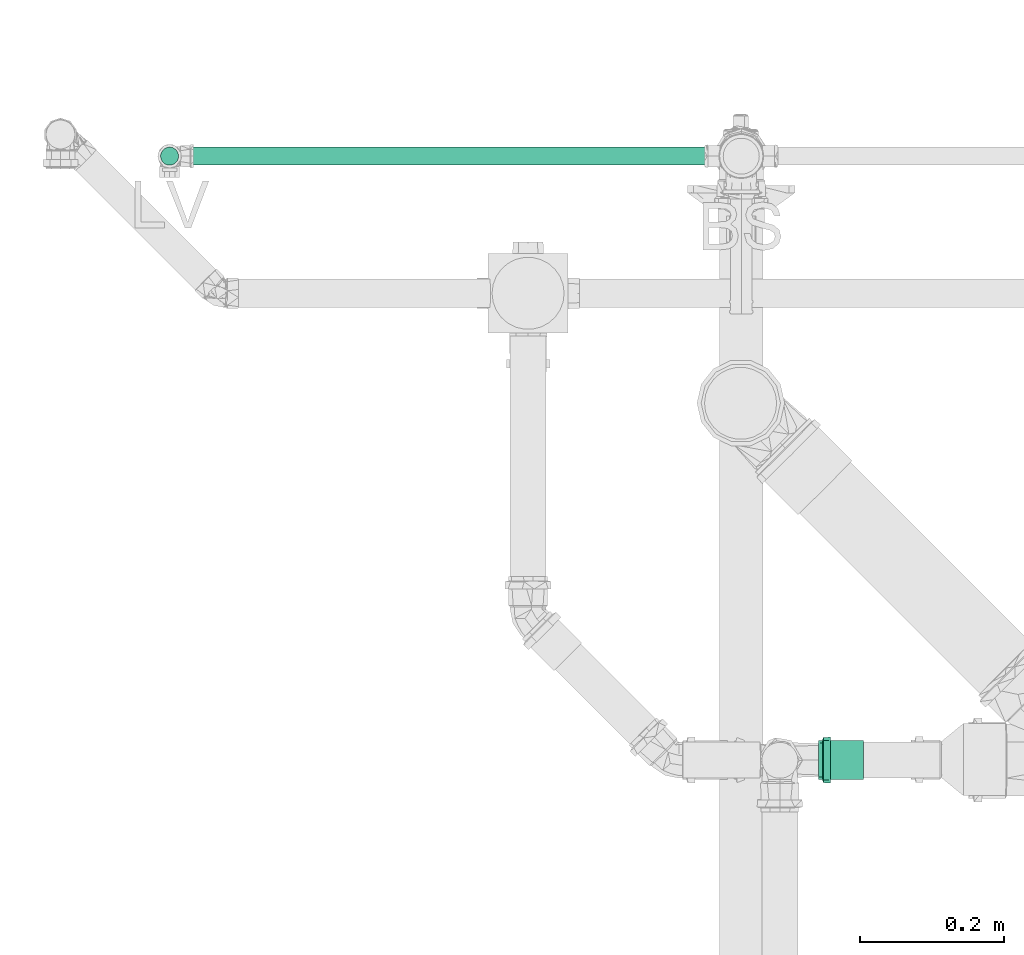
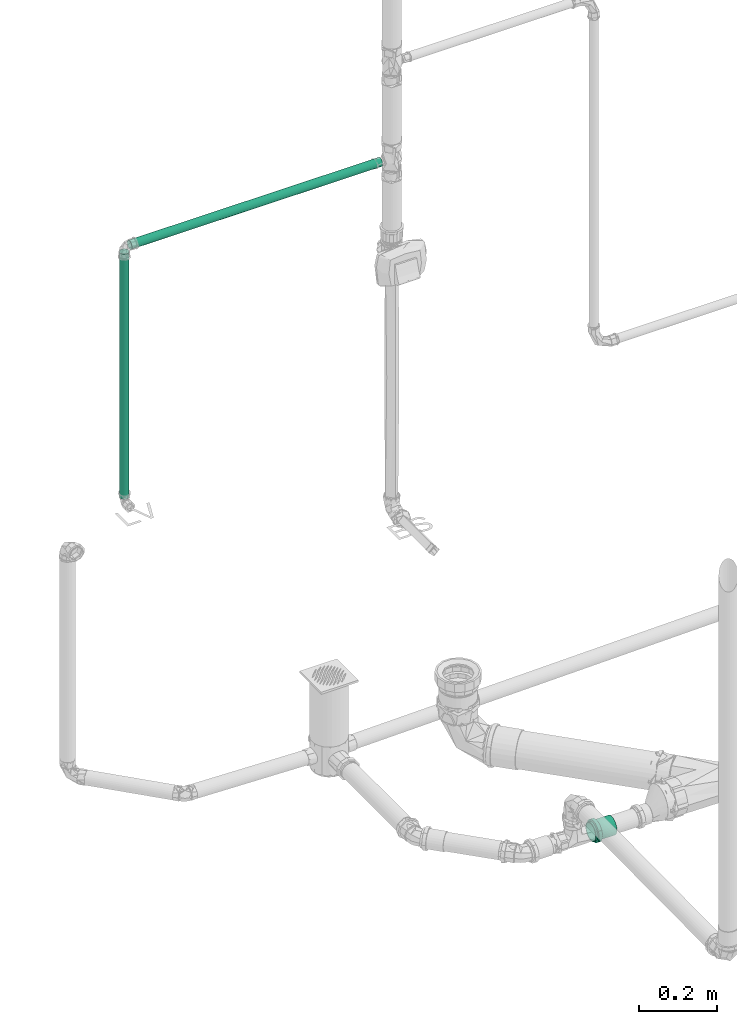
# One storey, part 287 of 589: 2 flow segments, 1 flow fitting.
"""IFC2X3 building model written with IfcOpenShell, lengths in millimetres."""

from ifc_helpers import new_model, entity, si_unit, converted_unit, derived_unit, direction, frame, origin, origin_2d_with_axis, place, context, subcontext, project, spatial, circle, extrude, faceted_brep, source, transform, mapped, material, type_object, type_shapes, element, save


model = new_model("IFC2X3")

# Units and contexts
model_context = context("Model", 3, precision=0.01, world=origin(), true_north=direction((6.123031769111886e-17, 1.0)))
body_context = subcontext(model_context, "Body", "Model", "MODEL_VIEW")
ifc_project = project(units=[si_unit("LENGTHUNIT", "METRE", prefix="MILLI"), si_unit("AREAUNIT", "SQUARE_METRE"), si_unit("VOLUMEUNIT", "CUBIC_METRE"), converted_unit("PLANEANGLEUNIT", "DEGREE", entity("IfcRatioMeasure", 0.017453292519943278), si_unit("PLANEANGLEUNIT", "RADIAN"), dimensions=[0, 0, 0, 0, 0, 0, 0]), si_unit("MASSUNIT", "GRAM", prefix="KILO"), derived_unit("MASSDENSITYUNIT", [(si_unit("MASSUNIT", "GRAM", prefix="KILO"), 1), (si_unit("LENGTHUNIT", "METRE"), -3)]), derived_unit("IONCONCENTRATIONUNIT", [(si_unit("MASSUNIT", "GRAM", prefix="KILO"), 1), (si_unit("LENGTHUNIT", "METRE"), -3)]), derived_unit("MOMENTOFINERTIAUNIT", [(si_unit("LENGTHUNIT", "METRE"), 4)]), si_unit("TIMEUNIT", "SECOND"), si_unit("FREQUENCYUNIT", "HERTZ"), si_unit("THERMODYNAMICTEMPERATUREUNIT", "DEGREE_CELSIUS"), derived_unit("THERMALTRANSMITTANCEUNIT", [(si_unit("MASSUNIT", "GRAM", prefix="KILO"), 1), (si_unit("THERMODYNAMICTEMPERATUREUNIT", "KELVIN"), -1), (si_unit("TIMEUNIT", "SECOND"), -3)]), derived_unit("THERMALCONDUCTANCEUNIT", [(si_unit("MASSUNIT", "GRAM", prefix="KILO"), 1), (si_unit("THERMODYNAMICTEMPERATUREUNIT", "KELVIN"), -1), (si_unit("TIMEUNIT", "SECOND"), -3), (si_unit("LENGTHUNIT", "METRE"), 1)]), derived_unit("VOLUMETRICFLOWRATEUNIT", [(si_unit("LENGTHUNIT", "METRE"), 3), (si_unit("TIMEUNIT", "SECOND"), -1)]), derived_unit("MASSFLOWRATEUNIT", [(si_unit("MASSUNIT", "GRAM", prefix="KILO"), 1), (si_unit("TIMEUNIT", "SECOND"), -1)]), derived_unit("ROTATIONALFREQUENCYUNIT", [(si_unit("TIMEUNIT", "SECOND"), -1)]), si_unit("ELECTRICCURRENTUNIT", "AMPERE"), si_unit("ELECTRICVOLTAGEUNIT", "VOLT"), si_unit("POWERUNIT", "WATT"), si_unit("FORCEUNIT", "NEWTON", prefix="KILO"), si_unit("ILLUMINANCEUNIT", "LUX"), si_unit("LUMINOUSFLUXUNIT", "LUMEN"), si_unit("LUMINOUSINTENSITYUNIT", "CANDELA"), derived_unit("USERDEFINED", [(si_unit("MASSUNIT", "GRAM", prefix="KILO"), -1), (si_unit("LENGTHUNIT", "METRE"), -2), (si_unit("TIMEUNIT", "SECOND"), 3), (si_unit("LUMINOUSFLUXUNIT", "LUMEN"), 1)]), derived_unit("USERDEFINED", [(si_unit("MASSUNIT", "GRAM", prefix="KILO"), 1), (si_unit("TIMEUNIT", "SECOND"), -3), (si_unit("LENGTHUNIT", "METRE"), 3), (si_unit("ELECTRICCURRENTUNIT", "AMPERE"), -2)]), derived_unit("SOUNDPOWERUNIT", [(si_unit("MASSUNIT", "GRAM", prefix="KILO"), 1), (si_unit("TIMEUNIT", "SECOND"), -3), (si_unit("LENGTHUNIT", "METRE"), 2)]), derived_unit("SOUNDPRESSUREUNIT", [(si_unit("MASSUNIT", "GRAM", prefix="KILO"), 1), (si_unit("LENGTHUNIT", "METRE"), -1), (si_unit("TIMEUNIT", "SECOND"), -2)]), derived_unit("LINEARVELOCITYUNIT", [(si_unit("LENGTHUNIT", "METRE"), 1), (si_unit("TIMEUNIT", "SECOND"), -1)]), si_unit("PRESSUREUNIT", "PASCAL"), derived_unit("USERDEFINED", [(si_unit("MASSUNIT", "GRAM", prefix="KILO"), 1), (si_unit("LENGTHUNIT", "METRE"), -2), (si_unit("TIMEUNIT", "SECOND"), -2)]), derived_unit("LINEARFORCEUNIT", [(si_unit("MASSUNIT", "GRAM", prefix="KILO"), 1), (si_unit("TIMEUNIT", "SECOND"), -2)]), derived_unit("PLANARFORCEUNIT", [(si_unit("MASSUNIT", "GRAM", prefix="KILO"), 1), (si_unit("LENGTHUNIT", "METRE"), -1), (si_unit("TIMEUNIT", "SECOND"), -2)]), derived_unit("SPECIFICHEATCAPACITYUNIT", [(si_unit("THERMODYNAMICTEMPERATUREUNIT", "KELVIN"), -1), (si_unit("LENGTHUNIT", "METRE"), 2), (si_unit("TIMEUNIT", "SECOND"), -2)]), derived_unit("HEATINGVALUEUNIT", [(si_unit("LENGTHUNIT", "METRE"), 2), (si_unit("TIMEUNIT", "SECOND"), -2)]), derived_unit("VAPORPERMEABILITYUNIT", [(si_unit("LENGTHUNIT", "METRE"), -1), (si_unit("TIMEUNIT", "SECOND"), 1)]), derived_unit("DYNAMICVISCOSITYUNIT", [(si_unit("MASSUNIT", "GRAM", prefix="KILO"), 1), (si_unit("TIMEUNIT", "SECOND"), -1), (si_unit("LENGTHUNIT", "METRE"), -1)]), derived_unit("THERMALEXPANSIONCOEFFICIENTUNIT", [(si_unit("THERMODYNAMICTEMPERATUREUNIT", "KELVIN"), -1)]), derived_unit("MODULUSOFELASTICITYUNIT", [(si_unit("MASSUNIT", "GRAM", prefix="KILO"), 1), (si_unit("LENGTHUNIT", "METRE"), -1), (si_unit("TIMEUNIT", "SECOND"), -2)]), derived_unit("ISOTHERMALMOISTURECAPACITYUNIT", [(si_unit("LENGTHUNIT", "METRE"), 3), (si_unit("MASSUNIT", "GRAM", prefix="KILO"), -1)]), derived_unit("MOISTUREDIFFUSIVITYUNIT", [(si_unit("TIMEUNIT", "SECOND"), -1), (si_unit("LENGTHUNIT", "METRE"), 2)])], contexts=[model_context])

# Site, building, storey
site_placement = place(None, origin())
site = spatial("IfcSite", under=ifc_project, at=site_placement, Name="Default", CompositionType="ELEMENT")
building_placement = place(site_placement, origin())
building = spatial("IfcBuilding", under=site, at=building_placement, CompositionType="ELEMENT")
storey_placement = place(building_placement, frame((0.0, 0.0, 100.0)))
storey = spatial("IfcBuildingStorey", under=building, at=storey_placement, Name="TÉRREO", CompositionType="ELEMENT", Elevation=100.0)

# Flow segments
pipe_segment_type = type_object("IfcPipeSegmentType", Name="Tipos de tubos:PVC Marrom Soldável", PredefinedType="NOTDEFINED")
flow_segment_1_placement = place(storey_placement, origin())
element("IfcFlowSegment", 1, at=flow_segment_1_placement, inside=storey, type_object=pipe_segment_type, Name="Tipos de tubos:PVC Marrom Soldável", ObjectType="Tipos de tubos:PVC Marrom Soldável", context=body_context, shape_type="SweptSolid", body=[
    extrude(circle(Radius=12.5, at=origin_2d_with_axis()), frame((5262.214646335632, 7535.924752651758, 616.3000000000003), z_axis=(0.0, 0.0, 1.0), x_axis=(-1.0, 0.0, 0.0)), (0.0, 0.0, 1.0), 768.2999999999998),
])
flow_segment_2_placement = place(storey_placement, origin())
element("IfcFlowSegment", 2, at=flow_segment_2_placement, inside=storey, type_object=pipe_segment_type, Name="Tipos de tubos:PVC Marrom Soldável", ObjectType="Tipos de tubos:PVC Marrom Soldável", context=body_context, shape_type="SweptSolid", body=[
    extrude(circle(Radius=12.5, at=origin_2d_with_axis()), frame((5277.614646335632, 7535.924752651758, 1400.0), z_axis=(1.0, 0.0, 0.0), x_axis=(0.0, -1.0, 0.0)), (0.0, 0.0, 1.0), 743.5038601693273),
])

# Flow fitting
ifc_material = material(Name="PVC Série Normal")
pipe_fitting_type = type_object("IfcPipeFittingType", Name="PVC Esgoto_Luva Simples para Conexão_Rodrigo MEP:Standard", PredefinedType="NOTDEFINED", material=ifc_material)
shared_shape = source(origin(), body_context, "Body", "Brep", [
    faceted_brep([(16.599999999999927, 15.900000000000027, -27.53960784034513), (16.599999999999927, 22.485995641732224, -22.485995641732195), (16.599999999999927, 13.599999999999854, -23.555890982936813), (16.599999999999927, 7.039878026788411, -26.273182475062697), (16.599999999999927, 8.2304456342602, -30.71644127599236), (16.599999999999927, 19.233304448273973, -19.233304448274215), (16.599999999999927, 27.539607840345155, -15.899999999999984), (16.599999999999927, 23.55589098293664, -13.600000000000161), (16.599999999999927, 26.273182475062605, -7.03987802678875), (16.599999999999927, 30.716441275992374, -8.230445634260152), (16.599999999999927, 27.2, 0.0), (16.599999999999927, 31.8, 0.0), (16.599999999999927, 26.273182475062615, 7.0398780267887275), (16.599999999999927, 30.71644127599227, 8.23044563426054), (16.599999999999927, 23.555890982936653, 13.60000000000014), (16.599999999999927, 27.539607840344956, 15.900000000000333), (16.599999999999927, 19.233304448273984, 19.2333044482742), (16.599999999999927, 22.485995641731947, 22.48599564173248), (16.599999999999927, 13.599999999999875, 23.555890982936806), (16.599999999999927, 15.899999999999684, 27.53960784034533), (16.599999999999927, 7.039878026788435, 26.27318247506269), (16.599999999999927, 8.230445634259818, 30.716441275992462), (16.599999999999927, 0.0, 27.2), (16.599999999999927, 0.0, 31.8), (16.599999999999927, -7.039878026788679, 26.273182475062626), (16.599999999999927, -8.230445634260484, 30.716441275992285), (16.599999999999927, -13.600000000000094, 23.555890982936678), (16.599999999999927, -15.900000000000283, 27.53960784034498), (16.599999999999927, -19.23330444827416, 19.233304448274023), (16.599999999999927, -22.485995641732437, 22.48599564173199), (16.599999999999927, -23.55589098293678, 13.59999999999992), (16.599999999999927, -27.539607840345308, 15.899999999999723), (16.599999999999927, -30.71644127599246, 8.230445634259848), (16.599999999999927, -26.273182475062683, 7.039878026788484), (16.599999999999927, -31.8, 0.0), (16.599999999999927, -27.2, 0.0), (16.599999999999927, -30.71644127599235, -8.23044563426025), (16.599999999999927, -26.273182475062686, -7.03987802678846), (16.599999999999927, -27.53960784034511, -15.90000000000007), (16.599999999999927, -23.55589098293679, -13.599999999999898), (16.599999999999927, -22.485995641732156, -22.485995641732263), (16.599999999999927, -19.233304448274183, -19.233304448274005), (16.599999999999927, -15.899999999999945, -27.53960784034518), (16.599999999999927, -13.600000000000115, -23.555890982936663), (16.599999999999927, -8.230445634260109, -30.716441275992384), (16.599999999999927, -7.039878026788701, -26.273182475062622), (16.599999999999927, 0.0, -31.8), (16.599999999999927, 0.0, -27.2), (6.500000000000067, -10.708108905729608, 29.429219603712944), (6.500000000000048, -24.359073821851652, 20.44200387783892), (6.500000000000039, -27.120498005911, 15.6595386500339), (6.50000000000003, -29.881922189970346, 10.877073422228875), (6.500000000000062, -15.89769721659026, 27.540937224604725), (6.500000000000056, -20.128385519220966, 23.991470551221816), (6.50000000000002, -30.840961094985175, 5.438536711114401), (6.5000000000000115, -31.8, 0.0), (6.50000000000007, -5.518520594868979, 31.317501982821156), (6.500000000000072, 5.526376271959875, 31.316116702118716), (6.50000000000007, 0.00392783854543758, 31.316809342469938), (6.500000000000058, 20.134403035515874, 23.986420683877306), (6.500000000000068, 10.715490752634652, 29.42653259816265), (6.500000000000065, 15.904605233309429, 27.536948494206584), (6.500000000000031, 29.8846497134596, 10.869577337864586), (6.500000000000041, 27.12442527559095, 15.652735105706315), (6.5000000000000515, 24.364200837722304, 20.435892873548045), (6.5000000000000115, 31.8, 0.0), (6.499999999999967, 24.364200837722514, -20.435892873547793), (6.499999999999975, 27.12442527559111, -15.652735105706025), (6.499999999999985, 29.884649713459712, -10.869577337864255), (6.4999999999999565, 15.904605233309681, -27.53694849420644), (6.499999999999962, 20.134403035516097, -23.986420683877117), (6.499999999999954, 10.715490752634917, -29.42653259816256), (6.499999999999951, 5.526376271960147, -31.31611670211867), (6.499999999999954, -5.518520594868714, -31.317501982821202), (6.499999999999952, 0.003927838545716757, -31.316809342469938), (6.499999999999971, -20.128385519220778, -23.99147055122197), (6.499999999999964, -15.897697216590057, -27.54093722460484), (6.499999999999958, -10.70810890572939, -29.42921960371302), (6.499999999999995, -29.881922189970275, -10.877073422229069), (6.499999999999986, -27.12049800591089, -15.659538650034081), (6.499999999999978, -24.359073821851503, -20.442003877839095), (6.500000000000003, -30.840961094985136, -5.438536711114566), (6.499999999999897, -30.696173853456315, -6.259599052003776), (62.0, 13.600000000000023, -23.55589098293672), (62.0, 19.233304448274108, -19.23330444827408), (62.0, 12.499999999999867, -21.650635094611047), (62.0, 6.470476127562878, -24.14814565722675), (62.0, 7.039878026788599, -26.273182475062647), (62.0, 17.677669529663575, -17.677669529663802), (62.0, 23.55589098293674, -13.599999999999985), (62.0, 21.65063509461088, -12.50000000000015), (62.0, 24.148145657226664, -6.470476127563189), (62.0, 26.27318247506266, -7.039878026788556), (62.0, 25.0, 0.0), (62.0, 27.2, 0.0), (62.0, 24.148145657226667, 6.4704761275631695), (62.0, 26.273182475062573, 7.03987802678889), (62.0, 21.650635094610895, 12.500000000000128), (62.0, 23.555890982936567, 13.600000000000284), (62.0, 17.67766952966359, 17.67766952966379), (62.0, 19.233304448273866, 19.233304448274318), (62.0, 12.499999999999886, 21.650635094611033), (62.0, 13.59999999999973, 23.55589098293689), (62.0, 6.4704761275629, 24.14814565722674), (62.0, 7.039878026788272, 26.273182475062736), (62.0, 0.0, 25.0), (62.0, 0.0, 27.2), (62.0, -6.470476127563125, 24.148145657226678), (62.0, -7.039878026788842, 26.273182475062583), (62.0, -12.500000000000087, 21.650635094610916), (62.0, -13.600000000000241, 23.555890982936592), (62.0, -17.677669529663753, 17.677669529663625), (62.0, -19.233304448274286, 19.2333044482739), (62.0, -21.65063509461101, 12.499999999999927), (62.0, -23.555890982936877, 13.599999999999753), (62.0, -26.27318247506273, 7.039878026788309), (62.0, -24.14814565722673, 6.470476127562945), (62.0, -27.2, 0.0), (62.0, -25.0, 0.0), (62.0, -26.27318247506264, -7.0398780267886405), (62.0, -24.148145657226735, -6.470476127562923), (62.0, -23.5558909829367, -13.600000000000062), (62.0, -21.650635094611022, -12.499999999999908), (62.0, -19.233304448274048, -19.233304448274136), (62.0, -17.67766952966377, -17.677669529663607), (62.0, -13.599999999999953, -23.555890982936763), (62.0, -12.500000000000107, -21.650635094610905), (62.0, -7.039878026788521, -26.27318247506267), (62.0, -6.470476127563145, -24.148145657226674), (62.0, 0.0, -27.2), (62.0, 0.0, -25.0), (0.0, 12.499999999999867, -21.650635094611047), (0.0, 19.233304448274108, -19.23330444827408), (0.0, 13.600000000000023, -23.55589098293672), (0.0, 6.470476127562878, -24.14814565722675), (0.0, 17.677669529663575, -17.677669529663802), (0.0, 23.55589098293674, -13.599999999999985), (0.0, 21.65063509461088, -12.50000000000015), (0.0, 24.148145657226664, -6.470476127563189), (0.0, 26.27318247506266, -7.039878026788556), (0.0, 25.0, 0.0), (0.0, 27.2, 0.0), (0.0, 24.148145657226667, 6.4704761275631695), (0.0, 26.273182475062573, 7.03987802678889), (0.0, 21.650635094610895, 12.500000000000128), (0.0, 23.555890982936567, 13.600000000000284), (0.0, 17.67766952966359, 17.67766952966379), (0.0, 19.233304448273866, 19.233304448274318), (0.0, 12.499999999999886, 21.650635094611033), (0.0, 13.59999999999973, 23.55589098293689), (0.0, 6.4704761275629, 24.14814565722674), (0.0, 7.039878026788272, 26.273182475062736), (0.0, 0.0, 25.0), (0.0, 0.0, 27.2), (0.0, -6.470476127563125, 24.148145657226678), (0.0, -7.039878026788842, 26.273182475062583), (0.0, -12.500000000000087, 21.650635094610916), (0.0, -13.600000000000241, 23.555890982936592), (0.0, -17.677669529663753, 17.677669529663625), (0.0, -19.233304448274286, 19.2333044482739), (0.0, -21.65063509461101, 12.499999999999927), (0.0, -23.555890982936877, 13.599999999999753), (0.0, -26.27318247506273, 7.039878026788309), (0.0, -24.14814565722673, 6.470476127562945), (0.0, -27.2, 0.0), (0.0, -25.0, 0.0), (0.0, -26.27318247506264, -7.0398780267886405), (0.0, -24.148145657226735, -6.470476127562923), (0.0, -23.5558909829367, -13.600000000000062), (0.0, -21.650635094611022, -12.499999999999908), (0.0, -19.233304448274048, -19.233304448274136), (0.0, -17.67766952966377, -17.677669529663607), (0.0, -13.599999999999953, -23.555890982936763), (0.0, -12.500000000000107, -21.650635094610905), (0.0, -7.039878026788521, -26.27318247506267), (0.0, -6.470476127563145, -24.148145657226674), (0.0, 0.0, -27.2), (0.0, 0.0, -25.0), (0.0, 7.039878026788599, -26.273182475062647), (5.300000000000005, -26.37968999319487, 4.651830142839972), (5.299999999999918, -26.25584678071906, 5.354122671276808), (5.300000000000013, -25.559379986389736, 9.303660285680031), (5.300000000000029, -20.835434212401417, 17.48498444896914), (5.300000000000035, -17.216732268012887, 20.521006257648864), (5.300000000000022, -23.19740709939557, 13.394322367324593), (5.3000000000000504, -4.720244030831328, 26.787297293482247), (5.300000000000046, -9.15913717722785, 25.172162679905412), (5.299999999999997, -27.2, 0.0), (5.300000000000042, -13.598030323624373, 23.557028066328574), (5.300000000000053, 9.165451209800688, 25.169864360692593), (5.300000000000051, 13.603939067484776, 23.55361632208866), (5.300000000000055, 4.7269633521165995, 26.786112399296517), (5.300000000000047, 17.221879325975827, 20.516686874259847), (5.300000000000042, 20.839819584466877, 17.479757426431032), (5.3000000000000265, 25.56171296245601, 9.297248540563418), (5.299999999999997, 27.2, 0.0), (5.3000000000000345, 23.20076627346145, 13.388502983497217), (5.300000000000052, 0.003359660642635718, 26.786704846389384), (5.299999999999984, 25.56171296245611, -9.29724854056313), (5.299999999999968, 20.839819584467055, -17.47975742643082), (5.2999999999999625, 17.22187932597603, -20.516686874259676), (5.299999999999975, 23.200766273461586, -13.388502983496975), (5.299999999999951, 4.726963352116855, -26.78611239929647), (5.2999999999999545, 9.165451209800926, -25.169864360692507), (5.299999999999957, 13.603939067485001, -23.553616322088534), (5.29999999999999, -26.379689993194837, -4.651830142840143), (5.299999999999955, -9.159137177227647, -25.17216267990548), (5.299999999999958, -13.5980303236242, -23.55702806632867), (5.299999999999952, -4.720244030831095, -26.787297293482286), (5.299999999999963, -17.216732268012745, -20.52100625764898), (5.299999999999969, -20.83543421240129, -17.484984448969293), (5.299999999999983, -25.559379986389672, -9.303660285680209), (5.299999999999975, -23.197407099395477, -13.394322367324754), (5.299999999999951, 0.003359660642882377, -26.78670484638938), (39.0, -25.0, 0.0), (39.0, 25.0, 0.0)], [[[0, 1, 2]], [[0, 2, 3]], [[3, 4, 0]], [[2, 1, 5]], [[6, 5, 1]], [[7, 5, 6]], [[8, 7, 6]], [[8, 6, 9]], [[8, 9, 10]], [[10, 9, 11]], [[12, 10, 11]], [[12, 11, 13]], [[14, 12, 13]], [[14, 13, 15]], [[16, 14, 15]], [[15, 17, 16]], [[17, 18, 16]], [[17, 19, 18]], [[18, 19, 20]], [[21, 20, 19]], [[20, 21, 22]], [[22, 21, 23]], [[22, 23, 24]], [[24, 23, 25]], [[24, 25, 26]], [[27, 26, 25]], [[27, 28, 26]], [[28, 27, 29]], [[30, 28, 29]], [[31, 30, 29]], [[32, 30, 31]], [[33, 30, 32]], [[33, 32, 34]], [[35, 33, 34]], [[36, 35, 34]], [[36, 37, 35]], [[37, 36, 38]], [[39, 37, 38]], [[39, 38, 40]], [[39, 40, 41]], [[40, 42, 41]], [[41, 42, 43]], [[43, 42, 44]], [[44, 45, 43]], [[46, 45, 44]], [[4, 47, 46]], [[46, 47, 45]], [[4, 3, 47]], [[48, 27, 25]], [[31, 29, 49]], [[31, 49, 50, 51]], [[52, 53, 27]], [[32, 51, 54]], [[54, 55, 34]], [[54, 34, 32]], [[25, 56, 48]], [[49, 29, 53]], [[23, 57, 58, 56]], [[59, 19, 17]], [[27, 53, 29]], [[48, 52, 27]], [[31, 51, 32]], [[57, 23, 21]], [[60, 19, 61]], [[15, 62, 63, 64]], [[19, 60, 21]], [[15, 13, 62]], [[17, 64, 59]], [[57, 21, 60]], [[23, 56, 25]], [[15, 64, 17]], [[13, 65, 62]], [[13, 11, 65]], [[59, 61, 19]], [[65, 11, 9]], [[6, 1, 66]], [[6, 66, 67, 68]], [[69, 70, 0]], [[68, 65, 9]], [[71, 69, 0]], [[71, 0, 4]], [[4, 72, 71]], [[66, 1, 70]], [[46, 73, 74, 72]], [[75, 76, 42]], [[0, 70, 1]], [[75, 42, 40]], [[6, 68, 9]], [[73, 46, 44]], [[77, 42, 76]], [[38, 78, 79, 80]], [[42, 77, 44]], [[38, 36, 78]], [[40, 80, 75]], [[73, 44, 77]], [[46, 72, 4]], [[38, 80, 40]], [[36, 81, 82, 78]], [[55, 81, 34]], [[34, 81, 36]], [[83, 84, 85]], [[83, 85, 86]], [[86, 87, 83]], [[85, 84, 88]], [[89, 88, 84]], [[88, 89, 90]], [[90, 89, 91]], [[92, 91, 89]], [[92, 93, 91]], [[93, 92, 94]], [[95, 93, 94]], [[94, 96, 95]], [[95, 96, 97]], [[98, 97, 96]], [[97, 98, 99]], [[99, 98, 100]], [[101, 99, 100]], [[100, 102, 101]], [[101, 102, 103]], [[104, 103, 102]], [[103, 104, 105]], [[105, 104, 106]], [[105, 106, 107]], [[107, 106, 108]], [[107, 108, 109]], [[110, 109, 108]], [[110, 111, 109]], [[111, 110, 112]], [[112, 113, 111]], [[114, 113, 112]], [[113, 114, 115]], [[115, 116, 113]], [[117, 116, 115]], [[117, 118, 116]], [[119, 118, 117]], [[119, 120, 118]], [[120, 119, 121]], [[121, 122, 120]], [[122, 121, 123]], [[122, 123, 124]], [[123, 125, 124]], [[124, 125, 126]], [[126, 125, 127]], [[127, 128, 126]], [[129, 128, 127]], [[87, 130, 129]], [[129, 130, 128]], [[87, 86, 130]], [[131, 132, 133]], [[134, 131, 133]], [[135, 132, 131]], [[132, 135, 136]], [[137, 136, 135]], [[138, 136, 137]], [[136, 138, 139]], [[138, 140, 139]], [[141, 139, 140]], [[141, 140, 142]], [[142, 143, 141]], [[144, 143, 142]], [[143, 144, 145]], [[146, 145, 144]], [[147, 145, 146]], [[147, 146, 148]], [[148, 149, 147]], [[150, 149, 148]], [[149, 150, 151]], [[152, 151, 150]], [[153, 151, 152]], [[154, 153, 152]], [[155, 153, 154]], [[156, 155, 154]], [[155, 156, 157]], [[156, 158, 157]], [[159, 157, 158]], [[158, 160, 159]], [[159, 160, 161]], [[162, 161, 160]], [[160, 163, 162]], [[162, 163, 164]], [[163, 165, 164]], [[164, 165, 166]], [[165, 167, 166]], [[168, 166, 167]], [[167, 169, 168]], [[170, 168, 169]], [[171, 170, 169]], [[171, 172, 170]], [[173, 172, 171]], [[174, 172, 173]], [[173, 175, 174]], [[174, 175, 176]], [[175, 177, 176]], [[177, 134, 178]], [[176, 177, 178]], [[133, 178, 134]], [[162, 179, 180, 181]], [[159, 182, 183]], [[182, 161, 181, 184]], [[185, 155, 186]], [[161, 162, 181]], [[187, 179, 164]], [[183, 188, 157]], [[183, 157, 159]], [[161, 182, 159]], [[189, 190, 149]], [[189, 149, 151]], [[157, 188, 186]], [[157, 186, 155]], [[153, 155, 185]], [[164, 179, 162]], [[151, 191, 189]], [[147, 192, 193]], [[143, 194, 195]], [[194, 145, 193, 196]], [[143, 195, 141]], [[10, 12, 96, 94]], [[149, 192, 147]], [[153, 185, 197, 191]], [[153, 191, 151]], [[145, 147, 193]], [[190, 192, 149]], [[145, 194, 143]], [[139, 195, 198]], [[132, 199, 200]], [[199, 136, 198, 201]], [[202, 178, 203]], [[136, 139, 198]], [[139, 141, 195]], [[92, 8, 10, 94]], [[133, 203, 178]], [[200, 204, 133]], [[136, 199, 132]], [[205, 164, 166]], [[206, 207, 172]], [[133, 204, 203]], [[206, 172, 174]], [[176, 178, 202]], [[200, 133, 132]], [[174, 208, 206]], [[170, 209, 210]], [[166, 211, 205]], [[211, 168, 210, 212]], [[168, 211, 166]], [[172, 209, 170]], [[176, 202, 213, 208]], [[176, 208, 174]], [[168, 170, 210]], [[207, 209, 172]], [[205, 187, 164]], [[116, 118, 214, 165, 163]], [[156, 109, 111, 158]], [[111, 113, 160, 158]], [[113, 116, 163, 160]], [[107, 109, 156, 154]], [[154, 152, 105, 107]], [[103, 105, 152, 150]], [[103, 150, 148, 101]], [[142, 95, 97, 144]], [[97, 99, 146, 144]], [[99, 101, 148, 146]], [[93, 95, 142, 140, 215]], [[215, 140, 138, 91, 93]], [[135, 131, 85, 88]], [[90, 91, 138, 137]], [[90, 137, 135, 88]], [[86, 85, 131, 134]], [[134, 177, 130, 86]], [[128, 130, 177, 175]], [[128, 175, 173, 126]], [[167, 120, 122, 169]], [[122, 124, 171, 169]], [[124, 126, 173, 171]], [[118, 120, 167, 165, 214]], [[211, 78, 82, 81, 55, 187, 205]], [[79, 78, 211, 212, 210, 80]], [[75, 80, 210, 209, 207, 76]], [[207, 206, 208, 73, 77, 76]], [[213, 202, 72, 74, 73, 208]], [[203, 204, 69, 71, 72, 202]], [[198, 195, 65, 68]], [[199, 201, 198, 68, 67, 66]], [[204, 200, 199, 66, 70, 69]], [[195, 194, 62, 65]], [[197, 185, 56, 58, 57, 191]], [[63, 62, 194, 196, 193, 64]], [[57, 60, 61, 190, 189, 191]], [[193, 192, 190, 61, 59, 64]], [[48, 56, 185, 186, 188, 52]], [[187, 55, 54, 51, 181, 180, 179]], [[182, 184, 181, 51, 50, 49]], [[188, 183, 182, 49, 53, 52]], [[30, 33, 115, 114]], [[117, 115, 33, 35]], [[26, 28, 112, 110]], [[114, 112, 28, 30]], [[24, 26, 110, 108]], [[108, 106, 22, 24]], [[18, 20, 104, 102]], [[100, 16, 18, 102]], [[12, 14, 98, 96]], [[100, 98, 14, 16]], [[104, 20, 22, 106]], [[89, 7, 8, 92]], [[83, 87, 3, 2]], [[7, 89, 84, 5]], [[83, 2, 5, 84]], [[87, 129, 47, 3]], [[43, 45, 127, 125]], [[123, 41, 43, 125]], [[37, 39, 121, 119]], [[123, 121, 39, 41]], [[35, 37, 119, 117]], [[127, 45, 47, 129]]]),
])
type_shapes(pipe_fitting_type, [shared_shape])
flow_fitting_placement = place(storey_placement, frame((6161.93322703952, 6698.647194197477, -241.89419613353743), z_axis=(-4.124665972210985e-05, -0.9999914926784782, -0.004124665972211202), x_axis=(0.9999500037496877, 0.0, -0.009999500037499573)))
element("IfcFlowFitting", 3, at=flow_fitting_placement, inside=storey, type_object=pipe_fitting_type, material=ifc_material, Name="PVC Esgoto_Luva Simples para Conexão_Rodrigo MEP:Standard", ObjectType="PVC Esgoto_Luva Simples para Conexão_Rodrigo MEP:Standard", context=body_context, shape_type="MappedRepresentation", body=[
    mapped(shared_shape, transform((0.0, 0.0, 0.0), scale=1.0)),
])

save(model, "model.ifc")
